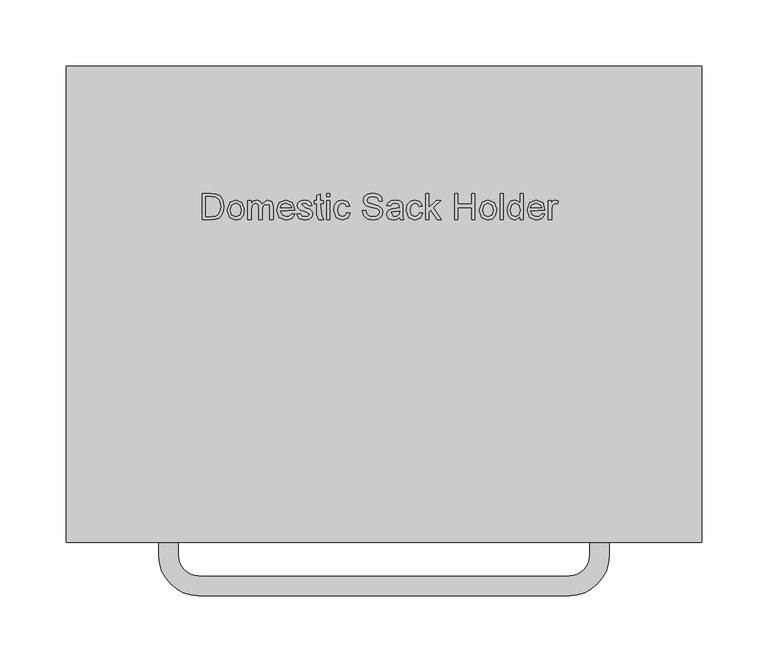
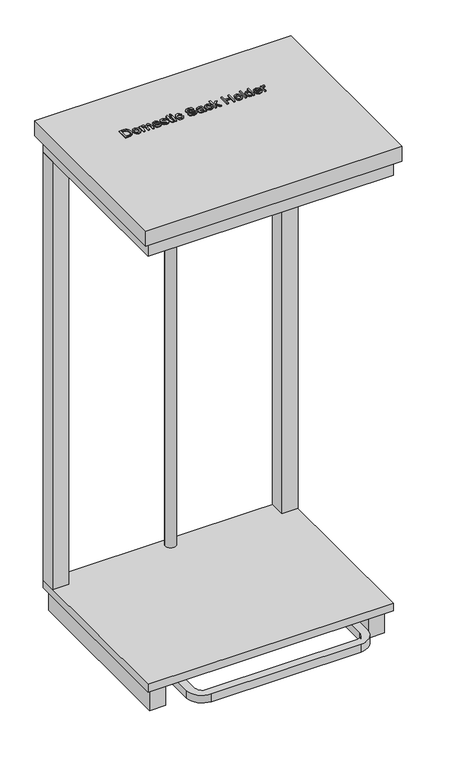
"""IFC4 building model written with IfcOpenShell, lengths in millimetres: furniture geometry, BIMHealth-Sack_Holder_Domestic-LOD2A-v1 : BIMHealth-Sack_Holder_Domestic-LOD2A-v1."""

from ifc_helpers import new_model, si_unit, point, frame, frame_2d, origin, origin_with_axes, place, context, project, spatial, polyline, circle_curve, trimmed, segment, composite_curve, outline, extrude, source, transform, mapped, element, save


def furniture_197fe330(model_context):
    return source(origin(), model_context, "Body", "SweptSolid", [
        extrude(outline(polyline([(82.8145603, -95.9720816), (82.8145603, -76.279774), (89.6078295, -76.279774), (93.1222526, -76.5634278), (96.0164833, -77.9720816), (98.3482141, -81.3374663), (99.1222526, -86.0201586), (98.5982141, -89.9937163), (97.2520603, -92.8615047), (95.4539833, -94.6475624), (93.100618, -95.6355432), (89.9347526, -95.9720816), (82.8145603, -95.9720816)]), holes=[polyline([(85.2760987, -93.5105432), (89.631868, -93.5105432), (92.8001372, -93.154774), (94.6270603, -92.1499663), (96.1246564, -89.7052547), (96.6607141, -85.981697), (95.6102333, -81.3182355), (93.0549449, -79.1355432), (89.5645603, -78.7413124), (85.2760987, -78.7413124), (85.2760987, -93.5105432)])]), frame((0.0, 0.0, 970.0), z_axis=(0.0, 0.0, 1.0), x_axis=(1.0, 0.0, 0.0)), (0.0, 0.0, 1.0), 2.0),
        extrude(outline(polyline([(101.583791, -88.7413124), (103.7135987, -82.8038124), (108.0501372, -81.2028509), (112.7015795, -83.1523701), (114.506868, -88.5393893), (113.708791, -92.919197), (111.3842718, -95.3975624), (108.0501372, -96.279774), (103.3698487, -94.3374663), (101.583791, -88.7413124)]), holes=[polyline([(104.0453295, -88.7365047), (105.1847526, -92.5514086), (108.0501372, -93.8182355), (110.9059064, -92.544197), (112.0453295, -88.6595816), (110.8986949, -84.9312163), (108.0501372, -83.6643893), (105.1847526, -84.9264086), (104.0453295, -88.7365047)])]), frame((0.0, 0.0, 970.0), z_axis=(0.0, 0.0, 1.0), x_axis=(1.0, 0.0, 0.0)), (0.0, 0.0, 1.0), 2.0),
        extrude(outline(polyline([(117.2760987, -95.9720816), (117.2760987, -81.5105432), (119.7376372, -81.5105432), (119.7376372, -83.8903509), (121.4299449, -81.9408316), (123.8385987, -81.2028509), (126.3049449, -81.9552547), (127.6607141, -84.0634278), (132.006868, -81.2028509), (135.225618, -82.3927547), (136.3530218, -86.0586201), (136.3530218, -95.9720816), (133.8914833, -95.9720816), (133.8914833, -87.1163124), (133.663118, -85.061024), (129.0092718, -84.6499663), (128.0453295, -87.8086201), (128.0453295, -95.9720816), (125.583791, -95.9720816), (125.583791, -86.842274), (125.0140795, -84.4576586), (123.146291, -83.6643893), (121.3241756, -84.1932355), (120.1126372, -85.7413124), (119.7376372, -88.6788124), (119.7376372, -95.9720816), (117.2760987, -95.9720816)])), frame((0.0, 0.0, 970.0), z_axis=(0.0, 0.0, 1.0), x_axis=(1.0, 0.0, 0.0)), (0.0, 0.0, 1.0), 2.0),
        extrude(outline(polyline([(150.1703295, -91.6643893), (152.583791, -91.9720816), (150.3265795, -95.1499663), (146.1222526, -96.279774), (141.0116756, -94.3302547), (139.1222526, -88.8615047), (141.0309064, -83.2124663), (145.9828295, -81.2028509), (150.7929256, -83.2076586), (152.6607141, -88.8470816), (141.583791, -89.5105432), (142.9996564, -92.7076586), (146.1703295, -93.8182355), (148.583791, -93.3038124), (150.1703295, -91.6643893)]), holes=[polyline([(141.583791, -87.0490047), (150.1991756, -87.0490047), (149.2135987, -84.8182355), (145.9732141, -83.6643893), (142.9419641, -84.5850624), (141.583791, -87.0490047)])]), frame((0.0, 0.0, 970.0), z_axis=(0.0, 0.0, 1.0), x_axis=(1.0, 0.0, 0.0)), (0.0, 0.0, 1.0), 2.0),
        extrude(outline(polyline([(154.1991756, -91.6643893), (156.6607141, -91.356697), (157.8001372, -93.1836201), (160.4107141, -93.8182355), (162.9203295, -93.2365047), (163.7376372, -91.8711201), (160.381868, -90.0634278), (156.6751372, -88.8591009), (155.0573487, -87.4528509), (154.506868, -85.467274), (154.9491756, -83.6331393), (156.1559064, -82.231697), (157.7208103, -81.5033316), (159.8385987, -81.2028509), (162.833791, -81.686024), (164.7376372, -82.9937163), (165.583791, -85.2028509), (163.1222526, -85.5105432), (162.1967718, -84.1523701), (160.0309064, -83.6643893), (157.6751372, -84.1307355), (160.3001372, -87.0009278), (163.913118, -88.1595816), (165.5910026, -89.4720816), (166.1991756, -91.6115047), (165.4852333, -93.967274), (163.4251372, -95.6764086), (160.3770603, -96.279774), (156.083791, -95.1163124), (154.1991756, -91.6643893)])), frame((0.0, 0.0, 970.0), z_axis=(0.0, 0.0, 1.0), x_axis=(1.0, 0.0, 0.0)), (0.0, 0.0, 1.0), 2.0),
        extrude(outline(polyline([(172.9684064, -92.9264086), (174.506868, -96.044197), (172.6655218, -96.279774), (170.6030218, -95.8711201), (169.2760987, -92.0057355), (169.2760987, -83.9720816), (167.4299449, -83.9720816), (167.4299449, -81.5105432), (169.2760987, -81.5105432), (169.2760987, -77.9961201), (171.7376372, -76.5490047), (171.7376372, -81.5105432), (174.1991756, -81.5105432), (174.1991756, -83.9720816), (171.7376372, -83.9720816), (172.9684064, -92.9264086)])), frame((0.0, 0.0, 970.0), z_axis=(0.0, 0.0, 1.0), x_axis=(1.0, 0.0, 0.0)), (0.0, 0.0, 1.0), 2.0),
        extrude(outline(polyline([(176.6607141, -78.7413124), (176.6607141, -76.279774), (179.1222526, -76.279774), (179.1222526, -78.7413124), (176.6607141, -78.7413124)])), frame((0.0, 0.0, 970.0), z_axis=(0.0, 0.0, 1.0), x_axis=(1.0, 0.0, 0.0)), (0.0, 0.0, 1.0), 2.0),
        extrude(outline(polyline([(176.6607141, -95.9720816), (176.6607141, -81.5105432), (179.1222526, -81.5105432), (179.1222526, -95.9720816), (176.6607141, -95.9720816)])), frame((0.0, 0.0, 970.0), z_axis=(0.0, 0.0, 1.0), x_axis=(1.0, 0.0, 0.0)), (0.0, 0.0, 1.0), 2.0),
        extrude(outline(polyline([(192.0453295, -90.7413124), (194.506868, -91.0490047), (192.5309064, -94.8927547), (188.6270603, -96.279774), (183.9611949, -94.3446778), (182.1991756, -88.794197), (182.9515795, -84.7052547), (185.2448487, -82.0778509), (188.5934064, -81.2028509), (192.3361949, -82.404774), (194.1991756, -85.8182355), (191.7376372, -86.1259278), (190.5958103, -84.2821778), (188.6126372, -83.6643893), (185.7592718, -84.8807355), (184.6607141, -88.7268893), (185.7352333, -92.6091009), (188.5453295, -93.8182355), (190.865041, -93.0634278), (192.0453295, -90.7413124)])), frame((0.0, 0.0, 970.0), z_axis=(0.0, 0.0, 1.0), x_axis=(1.0, 0.0, 0.0)), (0.0, 0.0, 1.0), 2.0),
        extrude(outline(polyline([(203.7376372, -89.2028509), (206.1991756, -89.2028509), (206.9924449, -91.6667932), (208.9299449, -93.2244855), (211.881868, -93.8182355), (214.4539833, -93.3687163), (216.115041, -92.1331393), (216.6607141, -90.481697), (216.2520603, -88.9456393), (214.5789833, -87.8278509), (210.9948487, -86.887947), (207.1366756, -85.6740047), (205.0429256, -83.842274), (204.3530218, -81.3951586), (205.2063872, -78.6091009), (207.6991756, -76.6427547), (211.3482141, -75.9720816), (215.2424449, -76.6740047), (217.8385987, -78.7365047), (218.8145603, -81.8182355), (216.3530218, -81.8182355), (214.958791, -79.2893893), (211.444368, -78.4336201), (207.9203295, -79.279774), (206.8145603, -81.3230432), (207.5982141, -83.029774), (211.6174449, -84.404774), (215.9732141, -85.6403509), (218.3554256, -87.6355432), (219.1222526, -90.419197), (218.240041, -93.3639086), (215.7015795, -95.512947), (211.9780218, -96.279774), (207.5813872, -95.4528509), (204.8001372, -92.9624663), (203.7376372, -89.2028509)])), frame((0.0, 0.0, 970.0), z_axis=(0.0, 0.0, 1.0), x_axis=(1.0, 0.0, 0.0)), (0.0, 0.0, 1.0), 2.0),
        extrude(outline(polyline([(231.7376372, -94.1259278), (229.350618, -95.794197), (226.7135987, -96.279774), (223.1390795, -95.1115047), (221.8914833, -92.1259278), (222.3626372, -90.1788124), (223.600618, -88.7653509), (225.3241756, -87.9576586), (227.4539833, -87.5874663), (231.7232141, -86.7413124), (231.0597526, -84.3759278), (228.3385987, -83.6643893), (225.8482141, -84.137947), (224.6607141, -85.8182355), (222.1991756, -85.5105432), (223.2640795, -83.106697), (225.4083103, -81.6980432), (228.6559064, -81.2028509), (231.6390795, -81.6403509), (233.3241756, -82.7389086), (234.0789833, -84.4095816), (234.1991756, -86.5634278), (234.1991756, -89.6259278), (234.3241756, -93.9023701), (234.8145603, -95.9720816), (232.3530218, -95.9720816), (231.7376372, -94.1259278)]), holes=[polyline([(231.7304256, -89.5514086), (227.7664833, -89.9576586), (225.6486949, -90.356697), (227.2376372, -93.8182355), (229.7280218, -93.2292932), (231.333791, -91.8038124), (231.7304256, -89.5514086)])]), frame((0.0, 0.0, 970.0), z_axis=(0.0, 0.0, 1.0), x_axis=(1.0, 0.0, 0.0)), (0.0, 0.0, 1.0), 2.0),
        extrude(outline(polyline([(246.8145603, -90.7413124), (249.2760987, -91.0490047), (247.3001372, -94.8927547), (243.396291, -96.279774), (238.7304256, -94.3446778), (236.9684064, -88.794197), (237.7208103, -84.7052547), (240.0140795, -82.0778509), (243.3626372, -81.2028509), (247.1054256, -82.404774), (248.9684064, -85.8182355), (246.506868, -86.1259278), (245.365041, -84.2821778), (243.381868, -83.6643893), (240.5285026, -84.8807355), (239.4299449, -88.7268893), (240.5044641, -92.6091009), (243.3145603, -93.8182355), (245.6342718, -93.0634278), (246.8145603, -90.7413124)])), frame((0.0, 0.0, 970.0), z_axis=(0.0, 0.0, 1.0), x_axis=(1.0, 0.0, 0.0)), (0.0, 0.0, 1.0), 2.0),
        extrude(outline(polyline([(251.4299449, -95.9720816), (251.4299449, -76.279774), (253.8914833, -76.279774), (253.8914833, -86.8615047), (259.4107141, -81.5105432), (262.8145603, -81.5105432), (257.2232141, -86.9288124), (263.1222526, -95.9720816), (260.2472526, -95.9720816), (255.458791, -88.6403509), (253.8914833, -90.1643893), (253.8914833, -95.9720816), (251.4299449, -95.9720816)])), frame((0.0, 0.0, 970.0), z_axis=(0.0, 0.0, 1.0), x_axis=(1.0, 0.0, 0.0)), (0.0, 0.0, 1.0), 2.0),
        extrude(outline(polyline([(273.2760987, -95.9720816), (273.2760987, -76.279774), (275.7376372, -76.279774), (275.7376372, -84.279774), (286.1991756, -84.279774), (286.1991756, -76.279774), (288.6607141, -76.279774), (288.6607141, -95.9720816), (286.1991756, -95.9720816), (286.1991756, -86.7413124), (275.7376372, -86.7413124), (275.7376372, -95.9720816), (273.2760987, -95.9720816)])), frame((0.0, 0.0, 970.0), z_axis=(0.0, 0.0, 1.0), x_axis=(1.0, 0.0, 0.0)), (0.0, 0.0, 1.0), 2.0),
        extrude(outline(polyline([(292.0453295, -88.7413124), (294.1751372, -82.8038124), (298.5116756, -81.2028509), (303.163118, -83.1523701), (304.9684064, -88.5393893), (304.1703295, -92.919197), (301.8458103, -95.3975624), (298.5116756, -96.279774), (293.8313872, -94.3374663), (292.0453295, -88.7413124)]), holes=[polyline([(294.506868, -88.7365047), (295.646291, -92.5514086), (298.5116756, -93.8182355), (301.3674449, -92.544197), (302.506868, -88.6595816), (301.3602333, -84.9312163), (298.5116756, -83.6643893), (295.646291, -84.9264086), (294.506868, -88.7365047)])]), frame((0.0, 0.0, 970.0), z_axis=(0.0, 0.0, 1.0), x_axis=(1.0, 0.0, 0.0)), (0.0, 0.0, 1.0), 2.0),
        extrude(outline(polyline([(307.7376372, -95.9720816), (307.7376372, -76.279774), (310.1991756, -76.279774), (310.1991756, -95.9720816), (307.7376372, -95.9720816)])), frame((0.0, 0.0, 970.0), z_axis=(0.0, 0.0, 1.0), x_axis=(1.0, 0.0, 0.0)), (0.0, 0.0, 1.0), 2.0),
        extrude(outline(polyline([(322.8145603, -95.9720816), (322.8145603, -93.6499663), (318.9347526, -96.279774), (315.8866756, -95.3278509), (313.7328295, -92.6716009), (312.9684064, -88.7557355), (313.6727333, -84.8374663), (315.7833103, -82.1403509), (318.9251372, -81.2028509), (321.194368, -81.873524), (322.8145603, -83.6163124), (322.8145603, -76.279774), (325.2760987, -76.279774), (325.2760987, -95.9720816), (322.8145603, -95.9720816)]), holes=[polyline([(315.4299449, -88.7461201), (316.5405218, -92.5562163), (319.1607141, -93.8182355), (321.7496564, -92.6139086), (322.8145603, -88.9336201), (321.7304256, -84.9384278), (319.0597526, -83.6643893), (316.4684064, -84.887947), (315.4299449, -88.7461201)])]), frame((0.0, 0.0, 970.0), z_axis=(0.0, 0.0, 1.0), x_axis=(1.0, 0.0, 0.0)), (0.0, 0.0, 1.0), 2.0),
        extrude(outline(polyline([(339.0934064, -91.6643893), (341.506868, -91.9720816), (339.2496564, -95.1499663), (335.0453295, -96.279774), (329.9347526, -94.3302547), (328.0453295, -88.8615047), (329.9539833, -83.2124663), (334.9059064, -81.2028509), (339.7160026, -83.2076586), (341.583791, -88.8470816), (330.506868, -89.5105432), (331.9227333, -92.7076586), (335.0934064, -93.8182355), (337.506868, -93.3038124), (339.0934064, -91.6643893)]), holes=[polyline([(330.506868, -87.0490047), (339.1222526, -87.0490047), (338.1366756, -84.8182355), (334.896291, -83.6643893), (331.865041, -84.5850624), (330.506868, -87.0490047)])]), frame((0.0, 0.0, 970.0), z_axis=(0.0, 0.0, 1.0), x_axis=(1.0, 0.0, 0.0)), (0.0, 0.0, 1.0), 2.0),
        extrude(outline(polyline([(344.0453295, -95.9720816), (344.0453295, -81.5105432), (346.1991756, -81.5105432), (346.1991756, -83.6499663), (347.7280218, -81.6788124), (349.2664833, -81.2028509), (351.7376372, -81.9624663), (350.9155218, -84.169197), (349.1847526, -83.6643893), (346.9059064, -85.4961201), (346.506868, -88.3711201), (346.506868, -95.9720816), (344.0453295, -95.9720816)])), frame((0.0, 0.0, 970.0), z_axis=(0.0, 0.0, 1.0), x_axis=(1.0, 0.0, 0.0)), (0.0, 0.0, 1.0), 2.0),
        extrude(outline(polyline([(-20.0, -340.0), (-20.0, 20.0), (460.0, 20.0), (460.0, -340.0), (-20.0, -340.0)])), frame((0.0, 0.0, 940.0), z_axis=(0.0, 0.0, 1.0), x_axis=(1.0, 0.0, 0.0)), (0.0, 0.0, 1.0), 30.0),
        extrude(outline(composite_curve([segment(trimmed(circle_curve(frame_2d((220.0, -5.0)), 10.0), [point((210.0, -5.0))], [point((230.0, -5.0))], False, "CARTESIAN"), True, "CONTINUOUS"), segment(trimmed(circle_curve(frame_2d((220.0, -5.0)), 10.0), [point((230.0, -5.0))], [point((210.0, -5.0))], False, "CARTESIAN"), True, "CONTINUOUS")], self_intersect=False)), frame((0.0, 0.0, 62.5), z_axis=(0.0, 0.0, 1.0), x_axis=(1.0, 0.0, 0.0)), (0.0, 0.0, 1.0), 847.5),
        extrude(outline(polyline([(420.0, 10.0), (450.0, 10.0), (450.0, -20.0), (420.0, -20.0), (420.0, 10.0)])), frame((0.0, 0.0, 62.5), z_axis=(0.0, 0.0, 1.0), x_axis=(1.0, 0.0, 0.0)), (0.0, 0.0, 1.0), 847.5),
        extrude(outline(polyline([(20.0, 10.0), (20.0, -20.0), (-10.0, -20.0), (-10.0, 10.0), (20.0, 10.0)])), frame((0.0, 0.0, 62.5), z_axis=(0.0, 0.0, 1.0), x_axis=(1.0, 0.0, 0.0)), (0.0, 0.0, 1.0), 847.5),
        extrude(outline(polyline([(450.0, -330.0), (-10.0, -330.0), (-10.0, 10.0), (450.0, 10.0), (450.0, -330.0)])), frame((0.0, 0.0, 47.5), z_axis=(0.0, 0.0, 1.0), x_axis=(1.0, 0.0, 0.0)), (0.0, 0.0, 1.0), 15.0),
        extrude(outline(polyline([(450.0, -330.0), (-10.0, -330.0), (-10.0, 10.0), (450.0, 10.0), (450.0, -330.0)])), frame((0.0, 0.0, 910.0), z_axis=(0.0, 0.0, 1.0), x_axis=(1.0, 0.0, 0.0)), (0.0, 0.0, 1.0), 30.0),
        extrude(outline(polyline([(410.0, -20.0), (30.0, -20.0), (30.0, -317.779018), (0.0, -317.779018), (0.0, 10.0), (440.0, 10.0), (440.0, -317.779018), (410.0, -317.779018), (410.0, -20.0)])), origin_with_axes(), (0.0, 0.0, 1.0), 47.5),
        extrude(outline(composite_curve([segment(polyline([(360.0, -380.0), (80.0, -380.0)]), True, "CONTINUOUS"), segment(trimmed(circle_curve(frame_2d((80.0, -350.0)), 30.0), [point((80.0, -380.0))], [point((50.0, -350.0))], False, "CARTESIAN"), True, "CONTINUOUS"), segment(polyline([(50.0, -350.0), (50.0, -132.779018), (390.0, -132.779018), (390.0, -350.0)]), True, "CONTINUOUS"), segment(trimmed(circle_curve(frame_2d((360.0, -350.0)), 30.0), [point((390.0, -350.0))], [point((360.0, -380.0))], False, "CARTESIAN"), True, "CONTINUOUS")], self_intersect=False), holes=[composite_curve([segment(trimmed(circle_curve(frame_2d((80.0, -350.0)), 15.0), [point((65.0, -350.0))], [point((80.0, -365.0))], True, "CARTESIAN"), True, "CONTINUOUS"), segment(polyline([(80.0, -365.0), (360.0, -365.0)]), True, "CONTINUOUS"), segment(trimmed(circle_curve(frame_2d((360.0, -350.0)), 15.0), [point((360.0, -365.0))], [point((375.0, -350.0))], True, "CARTESIAN"), True, "CONTINUOUS"), segment(polyline([(375.0, -350.0), (375.0, -147.779018), (65.0, -147.779018), (65.0, -350.0)]), True, "CONTINUOUS")], self_intersect=False)]), frame((0.0, 0.0, 27.5), z_axis=(0.0, 0.0, 1.0), x_axis=(1.0, 0.0, 0.0)), (0.0, 0.0, 1.0), 15.0),
    ])


if __name__ == "__main__":
    model = new_model("IFC4")
    model_context = context("Model", 3, world=origin())
    ifc_project = project(units=[si_unit("LENGTHUNIT", "METRE", prefix="MILLI")], contexts=[model_context])
    site = spatial("IfcSite", under=ifc_project)
    building = spatial("IfcBuilding", under=site)
    placement = place(None, origin())
    furniture_shape = furniture_197fe330(model_context)
    element("IfcFurniture", 1, ObjectType="BIMHealth-Sack_Holder_Domestic-LOD2A-v1 : BIMHealth-Sack_Holder_Domestic-LOD2A-v1", at=placement, inside=building, context=model_context, shape_type="MappedRepresentation", body=[
        mapped(furniture_shape, transform((0.0, 0.0, 0.0), x_axis=(1.0, 0.0, 0.0), y_axis=(0.0, 1.0, 0.0), z_axis=(0.0, 0.0, 1.0))),
    ])
    save(model, "model.ifc")
